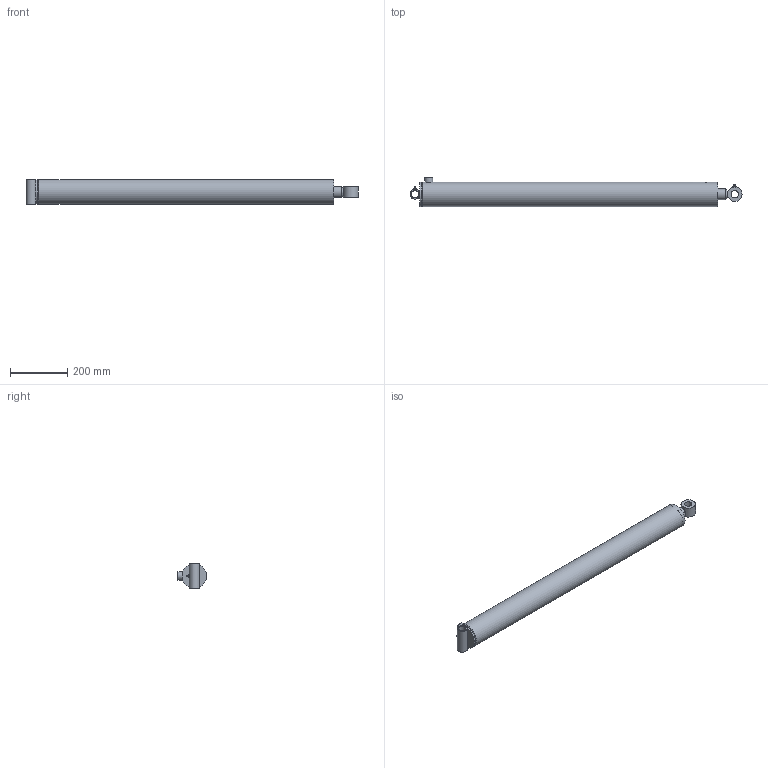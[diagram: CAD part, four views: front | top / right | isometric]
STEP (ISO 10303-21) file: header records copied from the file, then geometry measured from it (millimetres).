
FILE_DESCRIPTION((''),'2;1');
FILE_NAME('C:\Vault\Workspace\Vest\PMC-8336.stp','2010-02-12T11:04:49',('KneiflD'),(''),'Autodesk Inventor 2010','Autodesk Inventor 2010','');
FILE_SCHEMA(('AUTOMOTIVE_DESIGN { 1 0 10303 214 1 1 1 1 }'));
Length unit declared in the file: inch
Products named in the file (23): PMC-8336V; 061500055V; 051500073V; 161500007V; 210400412V; 200014403V; 081500401V; 020800290V; 010800821V; 210400528V; 071500021V; 220000210V; 250001222V; 240020059V; 240061334V; 240000334V; 230001300V; 240000022V; 240004006V; 240034334V; 200018003V; 270010020V; 270010002V
Assembly tree (25 placements, depth 3):
  PMC-8336V
    061500055V
      051500073V
      161500007V
      210400412V
      200014403V
    081500401V
    020800290V
      010800821V
      210400528V
    071500021V
    220000210V
    250001222V
    240020059V
    240061334V
    240000334V  x2
    230001300V
    240000022V
    240004006V
    240034334V  x2
    200018003V  x2
    270010020V
    270010002V
Bounding box: 1160.46 x 101.6 x 88.9 mm (x, y, z)
Volume: 2886262.2 mm3; surface area: 797322.3 mm2
Topology: 23 solids, 23 shells, 243 faces, 497 edges, 302 vertices
Faces by surface type: plane 115, cylinder 62, cone 36, torus 18, bspline 10, sphere 2
Full cylindrical faces by diameter (mm): 1.524 x2, 2.794 x2, 5.486 x1, 6.074 x1, 8.839 x1, 9.08 x1, 12.7 x1, 23.813 x1, 25.349 x1, 25.476 x1, 25.908 x1, 26.162 x1, 27.94 x1, 28.575 x1, 34.925 x1, 38.1 x2, 38.176 x2, 39.052 x1, 41.91 x1, 46.025 x2, 46.673 x1, 47.625 x1, 49.2 x1, 50.8 x1, 55.55 x1, 59.69 x1, 66.802 x1, 67.31 x3, 67.564 x1, 68.072 x1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
Entity records: 6610 total; most frequent: CARTESIAN_POINT 1740, DIRECTION 973, ORIENTED_EDGE 644, AXIS2_PLACEMENT_3D 440, EDGE_LOOP 379, EDGE_CURVE 322, VERTEX_POINT 257, FACE_OUTER_BOUND 221
